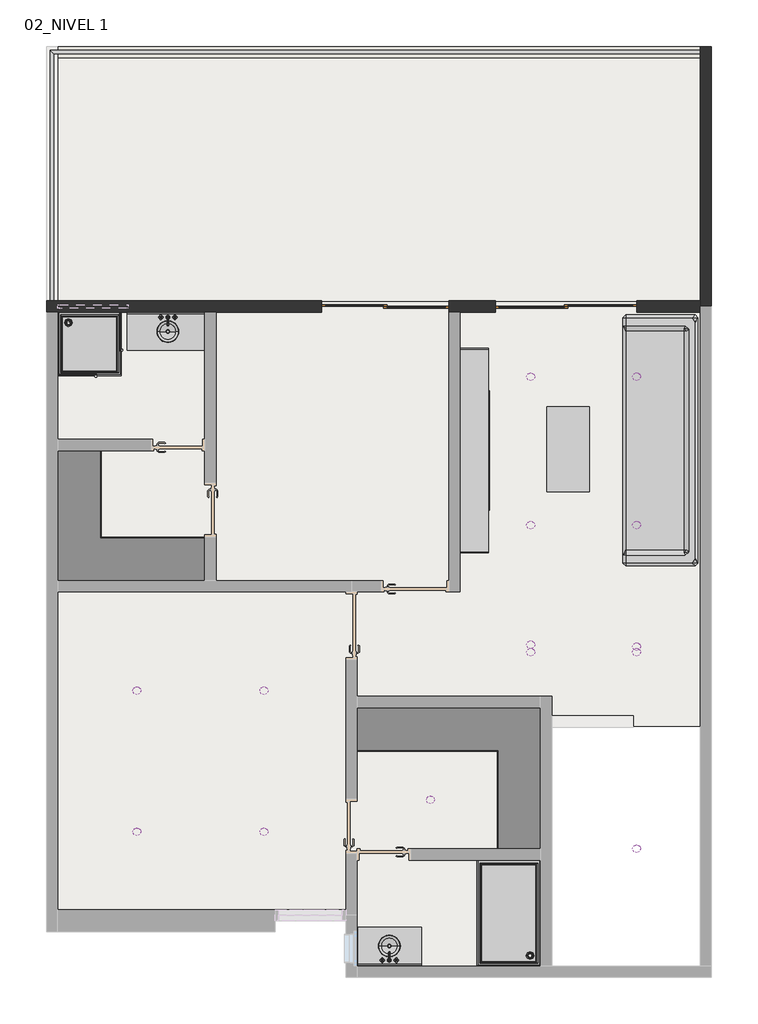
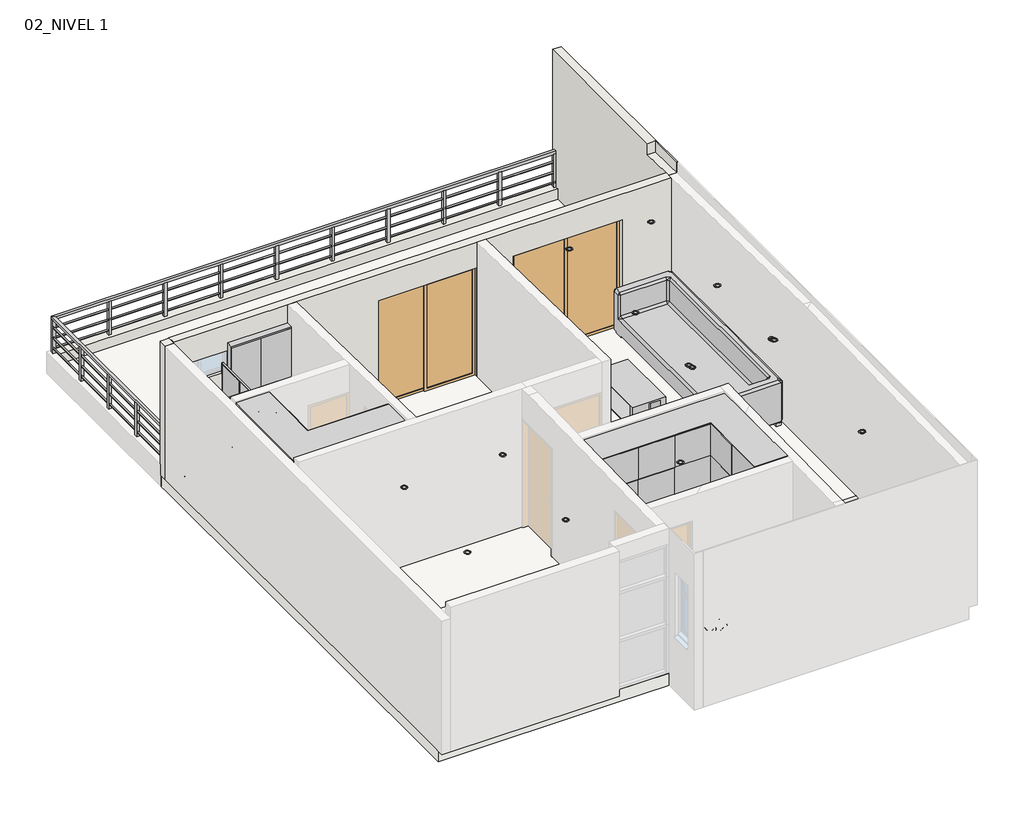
# One storey, part 2 of 2: 14 light fixtures, 8 furniture elements, 3 walls, 2 doors, 2 flow terminals, 2 slabs, 1 railing.
"""IFC4 building model written with IfcOpenShell, lengths in millimetres."""

from ifc_helpers import new_model, si_unit, frame, origin, place, context, project, spatial, polyline, circle_curve, ellipse_curve, outline, extrude, faceted_brep, transform, mapped, element, save
from ifc_brep_helpers import plane_surface, cylinder_surface, advanced_brep
from components import door_2_10x1_80_m_5b8bd3c6, door_2_10x2_00_m_3076c86e, shower_tray_1_900_x_1500mm_318f06ce, shower_tray_1_900_x_900mm_4f2a29ac, furniture_07055d1c, furniture_1fa0e306, furniture_608dc11b, furniture_16c61466, furniture_227ea14e, furniture_196cf90c, furniture_1_20m_x_60cm_cab01552, closet_l_2080x1840_closet_l_2080x1840_3d079f21, closet_l_2600x2000_closet_l_2600x2000_9fe47f77, negro_800ec4d1, light_fixture_93f22e3d

model = new_model("IFC4")

# Units and contexts
model_context = context("Model", 3, world=origin())
ifc_project = project(units=[si_unit("LENGTHUNIT", "METRE", prefix="MILLI")], contexts=[model_context])

# Site, building, storey
site = spatial("IfcSite", under=ifc_project)
building = spatial("IfcBuilding", under=site)
storey = spatial("IfcBuildingStorey", under=building, Name="02_NIVEL 1", Elevation=3100.0)

# Doors
placement = place(None, origin())
door_2_10x1_80_m_shape = door_2_10x1_80_m_5b8bd3c6(model_context)
element("IfcDoor", 1, ObjectType="PUERTA CORREDIZA DE CRISTAL : 2.10x1.80 m", at=placement, inside=storey, context=model_context, shape_type="MappedRepresentation", body=[
    mapped(door_2_10x1_80_m_shape, transform((8631.5346352, 8321.9853574, 3100.0), x_axis=(-1.0, 0.0, 0.0), y_axis=(0.0, -1.0, 0.0), z_axis=(0.0, 0.0, 1.0))),
])
door_2_10x2_00_m_shape = door_2_10x2_00_m_3076c86e(model_context)
element("IfcDoor", 2, ObjectType="PUERTA CORREDIZA DE CRISTAL : 2.10x2.00 m", at=placement, inside=storey, context=model_context, shape_type="MappedRepresentation", body=[
    mapped(door_2_10x2_00_m_shape, transform((11191.5346352, 8321.9853574, 3100.0), x_axis=(1.0, 0.0, 0.0), y_axis=(0.0, 1.0, 0.0), z_axis=(0.0, 0.0, 1.0))),
])

# Flow terminals
shower_tray_1_900_x_1500mm_shape = shower_tray_1_900_x_1500mm_318f06ce(model_context)
element("IfcFlowTerminal", 3, ObjectType="Shower Tray (1) : 900 x 1500mm", at=placement, inside=storey, context=model_context, shape_type="MappedRepresentation", body=[
    mapped(shower_tray_1_900_x_1500mm_shape, transform((10381.5346352, -268.0146426, 3100.0), x_axis=(-1.0, 0.0, 0.0), y_axis=(0.0, -1.0, 0.0), z_axis=(0.0, 0.0, 1.0))),
])
shower_tray_1_900_x_900mm_shape = shower_tray_1_900_x_900mm_4f2a29ac(model_context)
element("IfcFlowTerminal", 4, ObjectType="Shower Tray (1) : 900 x 900mm", at=placement, inside=storey, context=model_context, shape_type="MappedRepresentation", body=[
    mapped(shower_tray_1_900_x_900mm_shape, transform((4441.5346352, 7791.9853574, 3100.0), x_axis=(1.0, 0.0, 0.0), y_axis=(0.0, 1.0, 0.0), z_axis=(0.0, 0.0, 1.0))),
])

# Furniture
furniture_shape = furniture_07055d1c(model_context)
element("IfcFurniture", 5, ObjectType="MUEBLES FLOTANTE SALA 3900 : MUEBLES FLOTANTE SALA 3900", at=placement, inside=storey, context=model_context, shape_type="MappedRepresentation", body=[
    mapped(furniture_shape, transform((9691.5346352, 6281.9853574, 3100.0), x_axis=(0.0, 1.0, 0.0), y_axis=(-1.0, 0.0, 0.0), z_axis=(0.0, 0.0, 1.0))),
])
furniture_2_shape = furniture_1fa0e306(model_context)
element("IfcFurniture", 6, ObjectType="Enscape AssetDefinition - Sofá 035 3 plazas : Enscape AssetDefinition - Sofá 035 3 plazas", at=placement, inside=storey, context=model_context, shape_type="MappedRepresentation", body=[
    mapped(furniture_2_shape, transform((12471.5346352, 6441.9853574, 3100.0), x_axis=(0.0, -1.0, 0.0), y_axis=(1.0, 0.0, 0.0), z_axis=(0.0, 0.0, 1.0))),
])
furniture_3_shape = furniture_608dc11b(model_context)
furniture_4_shape = furniture_16c61466(model_context)
element("IfcFurniture", 7, ObjectType="Mueble para Baño 6 : Único", at=placement, inside=storey, context=model_context, shape_type="MappedRepresentation", body=[
    mapped(furniture_3_shape, transform((8691.5346352, -1008.0146426, 3100.0), x_axis=(-1.0, 0.0, 0.0), y_axis=(0.0, -1.0, 0.0), z_axis=(0.0, 0.0, 1.0))),
    mapped(furniture_4_shape, transform((8691.5346352, -1008.0146426, 3100.0), x_axis=(-1.0, 0.0, 0.0), y_axis=(0.0, -1.0, 0.0), z_axis=(0.0, 0.0, 1.0))),
])
furniture_5_shape = furniture_227ea14e(model_context)
furniture_6_shape = furniture_196cf90c(model_context)
element("IfcFurniture", 8, ObjectType="Mueble para Baño 6 : Único", at=placement, inside=storey, context=model_context, shape_type="MappedRepresentation", body=[
    mapped(furniture_5_shape, transform((5521.5346352, 8241.9853574, 3100.0), x_axis=(1.0, 0.0, 0.0), y_axis=(0.0, 1.0, 0.0), z_axis=(0.0, 0.0, 1.0))),
    mapped(furniture_6_shape, transform((5521.5346352, 8241.9853574, 3100.0), x_axis=(1.0, 0.0, 0.0), y_axis=(0.0, 1.0, 0.0), z_axis=(0.0, 0.0, 1.0))),
])
furniture_1_20m_x_60cm_shape = furniture_1_20m_x_60cm_cab01552(model_context)
element("IfcFurniture", 9, ObjectType="MESA DE CENTRO MODELO CARACAS : 1.20m x 60cm", at=placement, inside=storey, context=model_context, shape_type="MappedRepresentation", body=[
    mapped(furniture_1_20m_x_60cm_shape, transform((11221.5346352, 6301.9853574, 3100.0), x_axis=(0.0, 1.0, 0.0), y_axis=(-1.0, 0.0, 0.0), z_axis=(0.0, 0.0, 1.0))),
])
closet_l_2080x1840_closet_l_2080x1840_shape = closet_l_2080x1840_closet_l_2080x1840_3d079f21(model_context)
element("IfcFurniture", 10, ObjectType="CLOSET L 2080X1840 : CLOSET L 2080X1840", at=placement, inside=storey, context=model_context, shape_type="MappedRepresentation", body=[
    mapped(closet_l_2080x1840_closet_l_2080x1840_shape, transform((5336.2349616, 4442.3977176, 3100.0), x_axis=(-1.0, 0.0, 0.0), y_axis=(0.0, -1.0, 0.0), z_axis=(0.0, 0.0, 1.0))),
])
closet_l_2600x2000_closet_l_2600x2000_shape = closet_l_2600x2000_closet_l_2600x2000_9fe47f77(model_context)
element("IfcFurniture", 11, ObjectType="CLOSET L 2600X2000 : CLOSET L 2600X2000", at=placement, inside=storey, context=model_context, shape_type="MappedRepresentation", body=[
    mapped(closet_l_2600x2000_closet_l_2600x2000_shape, transform((9486.8343088, 2641.9853574, 3100.0), x_axis=(1.0, 0.0, 0.0), y_axis=(0.0, 1.0, 0.0), z_axis=(0.0, 0.0, 1.0))),
])
negro_shape = negro_800ec4d1(model_context)
element("IfcFurniture", 12, ObjectType="Mampara Cuadrada Perfilería : Negro", at=placement, inside=storey, context=model_context, shape_type="MappedRepresentation", body=[
    mapped(negro_shape, transform((3991.5346352, 8241.9853574, 3100.0), x_axis=(1.0, 0.0, 0.0), y_axis=(0.0, 1.0, 0.0), z_axis=(0.0, 0.0, 1.0))),
])

# Light fixtures
light_fixture_shape = light_fixture_93f22e3d(model_context)
element("IfcLightFixture", 13, ObjectType="TECNOLINE-LÁMPARA DE INTERIOR-DOWNLIGHT EMPOTRADA : TECNOLINE-LÁMPARA DE INTERIOR-DOWNLIGHT EMPOTRADA", at=placement, inside=storey, context=model_context, shape_type="MappedRepresentation", body=[
    mapped(light_fixture_shape, transform((9271.5346352, 1335.0945097, 5722.3753481), x_axis=(1.0, 0.0, 0.0), y_axis=(0.0, -0.9997447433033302, -0.022593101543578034), z_axis=(0.0, 0.022593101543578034, -0.9997447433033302))),
])
element("IfcLightFixture", 14, ObjectType="TECNOLINE-LÁMPARA DE INTERIOR-DOWNLIGHT EMPOTRADA : TECNOLINE-LÁMPARA DE INTERIOR-DOWNLIGHT EMPOTRADA", at=placement, inside=storey, context=model_context, shape_type="MappedRepresentation", body=[
    mapped(light_fixture_shape, transform((6911.5346352, 2881.9649369, 5757.3328719), x_axis=(1.0, 0.0, 0.0), y_axis=(0.0, -0.9997447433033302, -0.022593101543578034), z_axis=(0.0, 0.022593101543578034, -0.9997447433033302))),
])
element("IfcLightFixture", 15, ObjectType="TECNOLINE-LÁMPARA DE INTERIOR-DOWNLIGHT EMPOTRADA : TECNOLINE-LÁMPARA DE INTERIOR-DOWNLIGHT EMPOTRADA", at=placement, inside=storey, context=model_context, shape_type="MappedRepresentation", body=[
    mapped(light_fixture_shape, transform((5111.5346352, 2881.9649369, 5757.3328719), x_axis=(1.0, 0.0, 0.0), y_axis=(0.0, -0.9997447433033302, -0.022593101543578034), z_axis=(0.0, 0.022593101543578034, -0.9997447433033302))),
])
element("IfcLightFixture", 16, ObjectType="TECNOLINE-LÁMPARA DE INTERIOR-DOWNLIGHT EMPOTRADA : TECNOLINE-LÁMPARA DE INTERIOR-DOWNLIGHT EMPOTRADA", at=placement, inside=storey, context=model_context, shape_type="MappedRepresentation", body=[
    mapped(light_fixture_shape, transform((6911.5346352, 882.4754503, 5712.1466688), x_axis=(1.0, 0.0, 0.0), y_axis=(0.0, -0.9997447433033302, -0.022593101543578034), z_axis=(0.0, 0.022593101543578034, -0.9997447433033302))),
])
element("IfcLightFixture", 17, ObjectType="TECNOLINE-LÁMPARA DE INTERIOR-DOWNLIGHT EMPOTRADA : TECNOLINE-LÁMPARA DE INTERIOR-DOWNLIGHT EMPOTRADA", at=placement, inside=storey, context=model_context, shape_type="MappedRepresentation", body=[
    mapped(light_fixture_shape, transform((5111.5346352, 882.4754503, 5712.1466688), x_axis=(1.0, 0.0, 0.0), y_axis=(0.0, -0.9997447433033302, -0.022593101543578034), z_axis=(0.0, 0.022593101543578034, -0.9997447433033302))),
])
element("IfcLightFixture", 18, ObjectType="TECNOLINE-LÁMPARA DE INTERIOR-DOWNLIGHT EMPOTRADA : TECNOLINE-LÁMPARA DE INTERIOR-DOWNLIGHT EMPOTRADA", at=placement, inside=storey, context=model_context, shape_type="MappedRepresentation", body=[
    mapped(light_fixture_shape, transform((10691.5346352, 7324.622765, 5717.9547083), x_axis=(1.0, 0.0, 0.0), y_axis=(0.0, -0.9997951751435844, 0.02023876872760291), z_axis=(0.0, -0.02023876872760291, -0.9997951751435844))),
])
element("IfcLightFixture", 19, ObjectType="TECNOLINE-LÁMPARA DE INTERIOR-DOWNLIGHT EMPOTRADA : TECNOLINE-LÁMPARA DE INTERIOR-DOWNLIGHT EMPOTRADA", at=placement, inside=storey, context=model_context, shape_type="MappedRepresentation", body=[
    mapped(light_fixture_shape, transform((12191.5346352, 7325.9378404, 5717.9280874), x_axis=(1.0, 0.0, 0.0), y_axis=(0.0, -0.9997951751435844, 0.02023876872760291), z_axis=(0.0, -0.02023876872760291, -0.9997951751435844))),
])
element("IfcLightFixture", 20, ObjectType="TECNOLINE-LÁMPARA DE INTERIOR-DOWNLIGHT EMPOTRADA : TECNOLINE-LÁMPARA DE INTERIOR-DOWNLIGHT EMPOTRADA", at=placement, inside=storey, context=model_context, shape_type="MappedRepresentation", body=[
    mapped(light_fixture_shape, transform((10691.5346352, 5225.0528972, 5760.4561227), x_axis=(1.0, 0.0, 0.0), y_axis=(0.0, -0.9997951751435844, 0.02023876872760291), z_axis=(0.0, -0.02023876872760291, -0.9997951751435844))),
])
element("IfcLightFixture", 21, ObjectType="TECNOLINE-LÁMPARA DE INTERIOR-DOWNLIGHT EMPOTRADA : TECNOLINE-LÁMPARA DE INTERIOR-DOWNLIGHT EMPOTRADA", at=placement, inside=storey, context=model_context, shape_type="MappedRepresentation", body=[
    mapped(light_fixture_shape, transform((12191.5346352, 5226.3679726, 5760.4295017), x_axis=(1.0, 0.0, 0.0), y_axis=(0.0, -0.9997951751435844, 0.02023876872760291), z_axis=(0.0, -0.02023876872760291, -0.9997951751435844))),
])
element("IfcLightFixture", 22, ObjectType="TECNOLINE-LÁMPARA DE INTERIOR-DOWNLIGHT EMPOTRADA : TECNOLINE-LÁMPARA DE INTERIOR-DOWNLIGHT EMPOTRADA", at=placement, inside=storey, context=model_context, shape_type="MappedRepresentation", body=[
    mapped(light_fixture_shape, transform((10691.5346352, 3425.421582, 5796.8859064), x_axis=(1.0, 0.0, 0.0), y_axis=(0.0, -0.9997951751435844, 0.02023876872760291), z_axis=(0.0, -0.02023876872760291, -0.9997951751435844))),
])
element("IfcLightFixture", 23, ObjectType="TECNOLINE-LÁMPARA DE INTERIOR-DOWNLIGHT EMPOTRADA : TECNOLINE-LÁMPARA DE INTERIOR-DOWNLIGHT EMPOTRADA", at=placement, inside=storey, context=model_context, shape_type="MappedRepresentation", body=[
    mapped(light_fixture_shape, transform((12191.5346352, 3426.7366573, 5796.8592854), x_axis=(1.0, 0.0, 0.0), y_axis=(0.0, -0.9997951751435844, 0.02023876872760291), z_axis=(0.0, -0.02023876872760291, -0.9997951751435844))),
])
element("IfcLightFixture", 24, ObjectType="TECNOLINE-LÁMPARA DE INTERIOR-DOWNLIGHT EMPOTRADA : TECNOLINE-LÁMPARA DE INTERIOR-DOWNLIGHT EMPOTRADA", at=placement, inside=storey, context=model_context, shape_type="MappedRepresentation", body=[
    mapped(light_fixture_shape, transform((12191.5346352, 3503.2064397, 5771.3722278), x_axis=(1.0, 0.0, 0.0), y_axis=(0.0, -0.9997447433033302, -0.022593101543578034), z_axis=(0.0, 0.022593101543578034, -0.9997447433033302))),
])
element("IfcLightFixture", 25, ObjectType="TECNOLINE-LÁMPARA DE INTERIOR-DOWNLIGHT EMPOTRADA : TECNOLINE-LÁMPARA DE INTERIOR-DOWNLIGHT EMPOTRADA", at=placement, inside=storey, context=model_context, shape_type="MappedRepresentation", body=[
    mapped(light_fixture_shape, transform((10691.5346352, 3532.2843028, 5772.0293547), x_axis=(1.0, 0.0, 0.0), y_axis=(0.0, -0.9997447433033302, -0.022593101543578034), z_axis=(0.0, 0.022593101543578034, -0.9997447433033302))),
])
element("IfcLightFixture", 26, ObjectType="TECNOLINE-LÁMPARA DE INTERIOR-DOWNLIGHT EMPOTRADA : TECNOLINE-LÁMPARA DE INTERIOR-DOWNLIGHT EMPOTRADA", at=placement, inside=storey, context=model_context, shape_type="MappedRepresentation", body=[
    mapped(light_fixture_shape, transform((12191.9036792, 641.9853577, 5715.4397556), x_axis=(0.9999955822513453, -5.6878639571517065e-05, 0.0029719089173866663), y_axis=(0.0, -0.9998169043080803, -0.01913525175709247), z_axis=(0.0029724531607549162, 0.01913516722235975, -0.9998124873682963))),
])

# Railing
element("IfcRailing", 27, ObjectType="Porte perfil cuadrado y tubería 70 cm altura", at=placement, inside=storey, context=model_context, shape_type="SolidModel", body=[
    faceted_brep([(13091.5346352, 11896.9853574, 4000.0), (13091.5346352, 11896.9853574, 3950.0), (13091.5346352, 11946.9853574, 3950.0), (13091.5346352, 11946.9853574, 4000.0), (3936.5346352, 11896.9853574, 4000.0), (3936.5346352, 11896.9853574, 3950.0), (3886.5346352, 11946.9853574, 3950.0), (3886.5346352, 11946.9853574, 4000.0), (3936.5346352, 8386.9853574, 4000.0), (3886.5346352, 8386.9853574, 4000.0), (3886.5346352, 8386.9853574, 3950.0), (3936.5346352, 8386.9853574, 3950.0)], [[[0, 1, 2, 3]], [[1, 0, 4, 5]], [[2, 1, 5, 6]], [[3, 2, 6, 7]], [[0, 3, 7, 4]], [[8, 9, 10, 11]], [[5, 4, 8, 11]], [[6, 5, 11, 10]], [[7, 6, 10, 9]], [[4, 7, 9, 8]]]),
    advanced_brep(
    [(13091.5346352, 11906.9853574, 3785.0), (13091.5346352, 11936.9853574, 3785.0), (3926.5346352, 11906.9853574, 3785.0), (3896.5346352, 11936.9853574, 3785.0), (3926.5346352, 8386.9853574, 3785.0), (3896.5346352, 8386.9853574, 3785.0)],
    [
        (0, 1, circle_curve(frame((13091.5346352, 11921.9853574, 3785.0), z_axis=(1.0, 0.0, 0.0), x_axis=(0.0, 1.0, 0.0)), 15.0)),
        (1, 0, circle_curve(frame((13091.5346352, 11921.9853574, 3785.0), z_axis=(1.0, 0.0, 0.0), x_axis=(0.0, 1.0, 0.0)), 15.0)),
        (0, 2),
        (2, 3, ellipse_curve(frame((3911.5346352, 11921.9853574, 3785.0), z_axis=(0.7071067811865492, 0.7071067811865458, 0.0), x_axis=(0.7071067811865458, -0.7071067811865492, 0.0)), 21.2132034, 15.0)),
        (3, 1),
        (3, 2, ellipse_curve(frame((3911.5346352, 11921.9853574, 3785.0), z_axis=(0.7071067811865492, 0.7071067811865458, 0.0), x_axis=(0.7071067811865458, -0.7071067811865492, 0.0)), 21.2132034, 15.0)),
        (4, 5, circle_curve(frame((3911.5346352, 8386.9853574, 3785.0), z_axis=(0.0, -1.0, 0.0), x_axis=(-1.0, 0.0, 0.0)), 15.0)),
        (5, 4, circle_curve(frame((3911.5346352, 8386.9853574, 3785.0), z_axis=(0.0, -1.0, 0.0), x_axis=(-1.0, 0.0, 0.0)), 15.0)),
        (2, 4),
        (5, 3),
    ],
    [
        plane_surface(frame((13091.5346352, 11921.9853574, 3800.0), z_axis=(1.0, 0.0, 0.0), x_axis=(0.0, -1.0, 0.0))),
        cylinder_surface(frame((13091.5346352, 11921.9853574, 3785.0), z_axis=(1.0, 0.0, 0.0), x_axis=(0.0, 1.0, 0.0)), 15.0),
        plane_surface(frame((3911.5346352, 8386.9853574, 3800.0), z_axis=(0.0, -1.0, 0.0), x_axis=(0.0, 0.0, -1.0))),
        cylinder_surface(frame((3911.5346352, 11921.9853574, 3785.0), z_axis=(0.0, 1.0, 0.0), x_axis=(-1.0, 0.0, 0.0)), 15.0),
    ],
    [
        (0, [[1, 2]]),
        (1, [[-1, 3, 4, 5]]),
        (1, [[-2, -5, 6, -3]]),
        (2, [[7, 8]]),
        (3, [[-4, 9, -8, 10]]),
        (3, [[-6, -10, -7, -9]]),
    ],
),
    advanced_brep(
    [(13091.5346352, 11906.9853574, 3585.0), (13091.5346352, 11936.9853574, 3585.0), (3926.5346352, 11906.9853574, 3585.0), (3896.5346352, 11936.9853574, 3585.0), (3926.5346352, 8386.9853574, 3585.0), (3896.5346352, 8386.9853574, 3585.0)],
    [
        (0, 1, circle_curve(frame((13091.5346352, 11921.9853574, 3585.0), z_axis=(1.0, 0.0, 0.0), x_axis=(0.0, 1.0, 0.0)), 15.0)),
        (1, 0, circle_curve(frame((13091.5346352, 11921.9853574, 3585.0), z_axis=(1.0, 0.0, 0.0), x_axis=(0.0, 1.0, 0.0)), 15.0)),
        (0, 2),
        (2, 3, ellipse_curve(frame((3911.5346352, 11921.9853574, 3585.0), z_axis=(0.7071067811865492, 0.7071067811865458, 0.0), x_axis=(0.7071067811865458, -0.7071067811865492, 0.0)), 21.2132034, 15.0)),
        (3, 1),
        (3, 2, ellipse_curve(frame((3911.5346352, 11921.9853574, 3585.0), z_axis=(0.7071067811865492, 0.7071067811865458, 0.0), x_axis=(0.7071067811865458, -0.7071067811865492, 0.0)), 21.2132034, 15.0)),
        (4, 5, circle_curve(frame((3911.5346352, 8386.9853574, 3585.0), z_axis=(0.0, -1.0, 0.0), x_axis=(-1.0, 0.0, 0.0)), 15.0)),
        (5, 4, circle_curve(frame((3911.5346352, 8386.9853574, 3585.0), z_axis=(0.0, -1.0, 0.0), x_axis=(-1.0, 0.0, 0.0)), 15.0)),
        (2, 4),
        (5, 3),
    ],
    [
        plane_surface(frame((13091.5346352, 11921.9853574, 3600.0), z_axis=(1.0, 0.0, 0.0), x_axis=(0.0, -1.0, 0.0))),
        cylinder_surface(frame((13091.5346352, 11921.9853574, 3585.0), z_axis=(1.0, 0.0, 0.0), x_axis=(0.0, 1.0, 0.0)), 15.0),
        plane_surface(frame((3911.5346352, 8386.9853574, 3600.0), z_axis=(0.0, -1.0, 0.0), x_axis=(0.0, 0.0, -1.0))),
        cylinder_surface(frame((3911.5346352, 11921.9853574, 3585.0), z_axis=(0.0, 1.0, 0.0), x_axis=(-1.0, 0.0, 0.0)), 15.0),
    ],
    [
        (0, [[1, 2]]),
        (1, [[-1, 3, 4, 5]]),
        (1, [[-2, -5, 6, -3]]),
        (2, [[7, 8]]),
        (3, [[-4, 9, -8, 10]]),
        (3, [[-6, -10, -7, -9]]),
    ],
),
    advanced_brep(
    [(13091.5346352, 11906.9853574, 3385.0), (13091.5346352, 11936.9853574, 3385.0), (3926.5346352, 11906.9853574, 3385.0), (3896.5346352, 11936.9853574, 3385.0), (3926.5346352, 8386.9853574, 3385.0), (3896.5346352, 8386.9853574, 3385.0)],
    [
        (0, 1, circle_curve(frame((13091.5346352, 11921.9853574, 3385.0), z_axis=(1.0, 0.0, 0.0), x_axis=(0.0, 1.0, 0.0)), 15.0)),
        (1, 0, circle_curve(frame((13091.5346352, 11921.9853574, 3385.0), z_axis=(1.0, 0.0, 0.0), x_axis=(0.0, 1.0, 0.0)), 15.0)),
        (0, 2),
        (2, 3, ellipse_curve(frame((3911.5346352, 11921.9853574, 3385.0), z_axis=(0.7071067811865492, 0.7071067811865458, 0.0), x_axis=(0.7071067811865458, -0.7071067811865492, 0.0)), 21.2132034, 15.0)),
        (3, 1),
        (3, 2, ellipse_curve(frame((3911.5346352, 11921.9853574, 3385.0), z_axis=(0.7071067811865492, 0.7071067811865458, 0.0), x_axis=(0.7071067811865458, -0.7071067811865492, 0.0)), 21.2132034, 15.0)),
        (4, 5, circle_curve(frame((3911.5346352, 8386.9853574, 3385.0), z_axis=(0.0, -1.0, 0.0), x_axis=(-1.0, 0.0, 0.0)), 15.0)),
        (5, 4, circle_curve(frame((3911.5346352, 8386.9853574, 3385.0), z_axis=(0.0, -1.0, 0.0), x_axis=(-1.0, 0.0, 0.0)), 15.0)),
        (2, 4),
        (5, 3),
    ],
    [
        plane_surface(frame((13091.5346352, 11921.9853574, 3400.0), z_axis=(1.0, 0.0, 0.0), x_axis=(0.0, -1.0, 0.0))),
        cylinder_surface(frame((13091.5346352, 11921.9853574, 3385.0), z_axis=(1.0, 0.0, 0.0), x_axis=(0.0, 1.0, 0.0)), 15.0),
        plane_surface(frame((3911.5346352, 8386.9853574, 3400.0), z_axis=(0.0, -1.0, 0.0), x_axis=(0.0, 0.0, -1.0))),
        cylinder_surface(frame((3911.5346352, 11921.9853574, 3385.0), z_axis=(0.0, 1.0, 0.0), x_axis=(-1.0, 0.0, 0.0)), 15.0),
    ],
    [
        (0, [[1, 2]]),
        (1, [[-1, 3, 4, 5]]),
        (1, [[-2, -5, 6, -3]]),
        (2, [[7, 8]]),
        (3, [[-4, 9, -8, 10]]),
        (3, [[-6, -10, -7, -9]]),
    ],
),
    extrude(outline(polyline([(3886.1346352, 9296.1353574), (3936.9346352, 9296.1353574), (3936.9346352, 9245.3353574), (3886.1346352, 9245.3353574), (3886.1346352, 9296.1353574)])), frame((0.0, 0.0, 3300.0), z_axis=(0.0, 0.0, 1.0), x_axis=(1.0, 0.0, 0.0)), (0.0, 0.0, 1.0), 650.0),
    extrude(outline(polyline([(3886.1346352, 10179.8853574), (3936.9346352, 10179.8853574), (3936.9346352, 10129.0853574), (3886.1346352, 10129.0853574), (3886.1346352, 10179.8853574)])), frame((0.0, 0.0, 3300.0), z_axis=(0.0, 0.0, 1.0), x_axis=(1.0, 0.0, 0.0)), (0.0, 0.0, 1.0), 650.0),
    extrude(outline(polyline([(3886.1346352, 11063.6353574), (3936.9346352, 11063.6353574), (3936.9346352, 11012.8353574), (3886.1346352, 11012.8353574), (3886.1346352, 11063.6353574)])), frame((0.0, 0.0, 3300.0), z_axis=(0.0, 0.0, 1.0), x_axis=(1.0, 0.0, 0.0)), (0.0, 0.0, 1.0), 650.0),
    extrude(outline(polyline([(4956.9346352, 11947.3853574), (4956.9346352, 11896.5853574), (4906.1346352, 11896.5853574), (4906.1346352, 11947.3853574), (4956.9346352, 11947.3853574)])), frame((0.0, 0.0, 3300.0), z_axis=(0.0, 0.0, 1.0), x_axis=(1.0, 0.0, 0.0)), (0.0, 0.0, 1.0), 650.0),
    extrude(outline(polyline([(5976.9346352, 11947.3853574), (5976.9346352, 11896.5853574), (5926.1346352, 11896.5853574), (5926.1346352, 11947.3853574), (5976.9346352, 11947.3853574)])), frame((0.0, 0.0, 3300.0), z_axis=(0.0, 0.0, 1.0), x_axis=(1.0, 0.0, 0.0)), (0.0, 0.0, 1.0), 650.0),
    extrude(outline(polyline([(6996.9346352, 11947.3853574), (6996.9346352, 11896.5853574), (6946.1346352, 11896.5853574), (6946.1346352, 11947.3853574), (6996.9346352, 11947.3853574)])), frame((0.0, 0.0, 3300.0), z_axis=(0.0, 0.0, 1.0), x_axis=(1.0, 0.0, 0.0)), (0.0, 0.0, 1.0), 650.0),
    extrude(outline(polyline([(8016.9346352, 11947.3853574), (8016.9346352, 11896.5853574), (7966.1346352, 11896.5853574), (7966.1346352, 11947.3853574), (8016.9346352, 11947.3853574)])), frame((0.0, 0.0, 3300.0), z_axis=(0.0, 0.0, 1.0), x_axis=(1.0, 0.0, 0.0)), (0.0, 0.0, 1.0), 650.0),
    extrude(outline(polyline([(9036.9346352, 11947.3853574), (9036.9346352, 11896.5853574), (8986.1346352, 11896.5853574), (8986.1346352, 11947.3853574), (9036.9346352, 11947.3853574)])), frame((0.0, 0.0, 3300.0), z_axis=(0.0, 0.0, 1.0), x_axis=(1.0, 0.0, 0.0)), (0.0, 0.0, 1.0), 650.0),
    extrude(outline(polyline([(10056.9346352, 11947.3853574), (10056.9346352, 11896.5853574), (10006.1346352, 11896.5853574), (10006.1346352, 11947.3853574), (10056.9346352, 11947.3853574)])), frame((0.0, 0.0, 3300.0), z_axis=(0.0, 0.0, 1.0), x_axis=(1.0, 0.0, 0.0)), (0.0, 0.0, 1.0), 650.0),
    extrude(outline(polyline([(11076.9346352, 11947.3853574), (11076.9346352, 11896.5853574), (11026.1346352, 11896.5853574), (11026.1346352, 11947.3853574), (11076.9346352, 11947.3853574)])), frame((0.0, 0.0, 3300.0), z_axis=(0.0, 0.0, 1.0), x_axis=(1.0, 0.0, 0.0)), (0.0, 0.0, 1.0), 650.0),
    extrude(outline(polyline([(12096.9346352, 11947.3853574), (12096.9346352, 11896.5853574), (12046.1346352, 11896.5853574), (12046.1346352, 11947.3853574), (12096.9346352, 11947.3853574)])), frame((0.0, 0.0, 3300.0), z_axis=(0.0, 0.0, 1.0), x_axis=(1.0, 0.0, 0.0)), (0.0, 0.0, 1.0), 650.0),
    extrude(outline(polyline([(3936.9346352, 11947.3853574), (3936.9346352, 11896.5853574), (3886.1346352, 11896.5853574), (3886.1346352, 11947.3853574), (3936.9346352, 11947.3853574)])), frame((0.0, 0.0, 3300.0), z_axis=(0.0, 0.0, 1.0), x_axis=(1.0, 0.0, 0.0)), (0.0, 0.0, 1.0), 650.0),
    extrude(outline(polyline([(3886.1346352, 8424.8853574), (3936.9346352, 8424.8853574), (3936.9346352, 8374.0853574), (3886.1346352, 8374.0853574), (3886.1346352, 8424.8853574)])), frame((0.0, 0.0, 3300.0), z_axis=(0.0, 0.0, 1.0), x_axis=(1.0, 0.0, 0.0)), (0.0, 0.0, 1.0), 650.0),
    extrude(outline(polyline([(13104.4346352, 11947.3853574), (13104.4346352, 11896.5853574), (13053.6346352, 11896.5853574), (13053.6346352, 11947.3853574), (13104.4346352, 11947.3853574)])), frame((0.0, 0.0, 3300.0), z_axis=(0.0, 0.0, 1.0), x_axis=(1.0, 0.0, 0.0)), (0.0, 0.0, 1.0), 650.0),
])

# Slabs
element("IfcSlab", 28, ObjectType="LOSA ALIGERADA 20 CM-YESO+PISO 60X120 CM", at=placement, inside=storey, context=model_context, shape_type="Brep", body=[
    faceted_brep([(3846.5346352, -378.0146426, 2870.0), (3846.5346352, -218.0146426, 2870.0), (3846.5346352, 8241.9853574, 2870.0), (3846.5346352, 8386.9853574, 2870.0), (13091.5346352, 8386.9853574, 2870.0), (13236.5346352, 8386.9853574, 2870.0), (13236.5346352, 2381.9853574, 2870.0), (13091.5346352, 2381.9853574, 2870.0), (12141.9346352, 2381.9853574, 2870.0), (10991.5346352, 2381.9853574, 2870.0), (10976.5346352, 2381.9853574, 2870.0), (10976.5346352, -1018.0146426, 2870.0), (10976.5346352, -1163.0146426, 2870.0), (8231.5346352, -1163.0146426, 2870.0), (8086.5346352, -1163.0146426, 2870.0), (8086.5346352, -378.0146426, 2870.0), (8071.5346352, -378.0146426, 2870.0), (7071.5346352, -378.0146426, 2870.0), (3846.5346352, -378.0146426, 3100.0), (7071.5346352, -378.0146426, 3100.0), (8071.5346352, -378.0146426, 3100.0), (8086.5346352, -378.0146426, 3100.0), (8086.5346352, -1163.0146426, 3100.0), (8231.5346352, -1163.0146426, 3100.0), (10976.5346352, -1163.0146426, 3100.0), (10976.5346352, -1018.0146426, 3100.0), (10976.5346352, 2381.9853574, 3100.0), (10991.5346352, 2381.9853574, 3100.0), (12141.9346352, 2381.9853574, 3100.0), (13091.5346352, 2381.9853574, 3100.0), (13236.5346352, 2381.9853574, 3100.0), (13236.5346352, 8386.9853574, 3100.0), (3846.5346352, 8386.9853574, 3100.0), (3846.5346352, 8241.9853574, 3100.0), (3846.5346352, -218.0146426, 3100.0), (3846.5346352, 8386.9853574, 2884.0), (13236.5346352, 8386.9853574, 2884.0)], [[[0, 1, 2, 3, 4, 5, 6, 7, 8, 9, 10, 11, 12, 13, 14, 15, 16, 17]], [[18, 19, 20, 21, 22, 23, 24, 25, 26, 27, 28, 29, 30, 31, 32, 33, 34]], [[3, 2, 1, 0, 18, 34, 33, 32, 35]], [[5, 4, 3, 35, 32, 31, 36]], [[6, 5, 36, 31, 30]], [[14, 13, 12, 24, 23, 22]], [[15, 14, 22, 21]], [[0, 17, 16, 15, 21, 20, 19, 18]], [[10, 9, 8, 7, 6, 30, 29, 28, 27, 26]], [[12, 11, 10, 26, 25, 24]]]),
])
element("IfcSlab", 29, ObjectType="LOSA DE AZOTEA ALIGERADA 20 CM +YESO", at=placement, inside=storey, context=model_context, shape_type="Brep", body=[
    faceted_brep([(3846.5346352, 8386.9853574, 2884.0), (3846.5346352, 8401.9853574, 2884.0), (3846.5346352, 11986.9853574, 2884.0), (3991.5346352, 11986.9853574, 2884.0), (13091.5346352, 11986.9853574, 2884.0), (13236.5346352, 11986.9853574, 2884.0), (13236.5346352, 11501.9853574, 2884.0), (13236.5346352, 8386.9853574, 2884.0), (13091.5346352, 8386.9853574, 2884.0), (3846.5346352, 8386.9853574, 3100.0), (13236.5346352, 8386.9853574, 3100.0), (13236.5346352, 11501.9853574, 3100.0), (13236.5346352, 11986.9853574, 3100.0), (13091.5346352, 11986.9853574, 3100.0), (3991.5346352, 11986.9853574, 3100.0), (3846.5346352, 11986.9853574, 3100.0), (3846.5346352, 8401.9853574, 3100.0)], [[[0, 1, 2, 3, 4, 5, 6, 7, 8]], [[9, 10, 11, 12, 13, 14, 15, 16]], [[2, 1, 0, 9, 16, 15]], [[5, 4, 3, 2, 15, 14, 13, 12]], [[0, 8, 7, 10, 9]], [[7, 6, 5, 12, 11, 10]]]),
])

# Walls
element("IfcWall", 30, ObjectType="M_LADRILLO_13-YESO+YESO", at=placement, inside=storey, context=model_context, shape_type="Brep", body=[
    faceted_brep([(3831.5346352, 8401.9853574, 3100.0), (3831.5346352, 8401.9853574, 3300.0), (3831.5346352, 8401.9853574, 5684.0), (3991.5346352, 8401.9853574, 5684.0), (3991.5346352, 8401.9853574, 5696.145749), (13091.5346352, 8401.9853574, 5696.145749), (13091.5346352, 8401.9853574, 3100.0), (12191.5346352, 8401.9853574, 3100.0), (12191.5346352, 8401.9853574, 5200.0), (10191.5346352, 8401.9853574, 5200.0), (10191.5346352, 8401.9853574, 3100.0), (9531.5346352, 8401.9853574, 3100.0), (9531.5346352, 8401.9853574, 5200.0), (7731.5346352, 8401.9853574, 5200.0), (7731.5346352, 8401.9853574, 3100.0), (3991.5346352, 8401.9853574, 3100.0), (3846.5346352, 8401.9853574, 3100.0), (3991.5346352, 8401.9853574, 5200.0), (3991.5346352, 8401.9853574, 4800.0), (4991.5346352, 8401.9853574, 4800.0), (4991.5346352, 8401.9853574, 5200.0), (3991.5346352, 8241.9853574, 5684.0), (3831.5346352, 8241.9853574, 5684.0), (3831.5346352, 8241.9853574, 3100.0), (3846.5346352, 8241.9853574, 3100.0), (3991.5346352, 8241.9853574, 3100.0), (6071.5346352, 8241.9853574, 3100.0), (6231.5346352, 8241.9853574, 3100.0), (7731.5346352, 8241.9853574, 3100.0), (7731.5346352, 8241.9853574, 5200.0), (9531.5346352, 8241.9853574, 5200.0), (9531.5346352, 8241.9853574, 3100.0), (9691.5346352, 8241.9853574, 3100.0), (10191.5346352, 8241.9853574, 3100.0), (10191.5346352, 8241.9853574, 5200.0), (12191.5346352, 8241.9853574, 5200.0), (12191.5346352, 8241.9853574, 3100.0), (13091.5346352, 8241.9853574, 3100.0), (13091.5346352, 8241.9853574, 5699.3846154), (9691.5346352, 8241.9853574, 5699.3846154), (9531.5346352, 8241.9853574, 5699.3846154), (6231.5346352, 8241.9853574, 5699.3846154), (6071.5346352, 8241.9853574, 5699.3846154), (3991.5346352, 8241.9853574, 5699.3846154), (3991.5346352, 8241.9853574, 4800.0), (3991.5346352, 8241.9853574, 5200.0), (4991.5346352, 8241.9853574, 5200.0), (4991.5346352, 8241.9853574, 4800.0), (13091.5346352, 8321.9853574, 3100.0), (13091.5346352, 8321.9853574, 5697.7651822)], [[[0, 1, 2, 3, 4, 5, 6, 7, 8, 9, 10, 11, 12, 13, 14, 15, 16], [17, 18, 19, 20]], [[21, 22, 23, 24, 25, 26, 27, 28, 29, 30, 31, 32, 33, 34, 35, 36, 37, 38, 39, 40, 41, 42, 43], [44, 45, 46, 47]], [[23, 0, 16, 15, 14, 28, 27, 26, 25, 24]], [[36, 7, 6, 48, 37]], [[10, 33, 32, 31, 11]], [[0, 23, 22, 2, 1]], [[3, 21, 43, 4]], [[2, 22, 21, 3]], [[35, 8, 7, 36]], [[8, 35, 34, 9]], [[9, 34, 33, 10]], [[38, 49, 5, 4, 43, 42, 41, 40, 39]], [[14, 13, 29, 28]], [[13, 12, 30, 29]], [[12, 11, 31, 30]], [[45, 44, 18, 17]], [[46, 45, 17, 20]], [[47, 46, 20, 19]], [[44, 47, 19, 18]], [[6, 5, 49, 38, 37, 48]]]),
])
element("IfcWall", 31, ObjectType="M_LADRILLO_13-YESO+YESO", at=placement, inside=storey, context=model_context, shape_type="Brep", body=[
    faceted_brep([(13091.5346352, 11841.9853574, 3300.0), (3991.5346352, 11841.9853574, 3300.0), (3991.5346352, 11841.9853574, 3100.0), (13091.5346352, 11841.9853574, 3100.0), (13091.5346352, 12001.9853574, 2884.0), (3991.5346352, 12001.9853574, 2884.0), (3991.5346352, 12001.9853574, 3300.0), (13091.5346352, 12001.9853574, 3300.0), (13091.5346352, 12001.9853574, 3100.0), (13091.5346352, 11986.9853574, 2884.0), (3991.5346352, 11986.9853574, 2884.0), (3991.5346352, 11986.9853574, 3100.0), (13091.5346352, 11986.9853574, 3100.0)], [[[0, 1, 2, 3]], [[4, 5, 6, 7, 8]], [[5, 4, 9, 10]], [[1, 0, 7, 6]], [[1, 6, 5, 10, 11, 2]], [[11, 12, 3, 2]], [[12, 11, 10, 9]], [[4, 8, 7, 0, 3, 12, 9]]]),
])
element("IfcWall", 32, ObjectType="M_LADRILLO_13-YESO+YESO", at=placement, inside=storey, context=model_context, shape_type="Brep", body=[
    faceted_brep([(13251.5346352, 8321.9853574, 3100.0), (13251.5346352, 11501.9853574, 3100.0), (13251.5346352, 12001.9853574, 3100.0), (13251.5346352, 12001.9853574, 5900.0), (13251.5346352, 9016.9853574, 5900.0), (13251.5346352, 8321.9853574, 5900.0), (13091.5346352, 12001.9853574, 3100.0), (13091.5346352, 11986.9853574, 3100.0), (13091.5346352, 11841.9853574, 3100.0), (13091.5346352, 8401.9853574, 3100.0), (13091.5346352, 8321.9853574, 3100.0), (13091.5346352, 8321.9853574, 5697.7651822), (13091.5346352, 8401.9853574, 5696.145749), (13091.5346352, 9001.9853574, 5684.0), (13091.5346352, 9001.9853574, 5900.0), (13091.5346352, 9016.9853574, 5900.0), (13091.5346352, 12001.9853574, 5900.0), (13091.5346352, 12001.9853574, 3300.0), (13236.5346352, 9001.9853574, 5900.0), (13236.5346352, 8321.9853574, 5900.0), (13236.5346352, 9001.9853574, 5684.0), (13236.5346352, 8321.9853574, 5697.7651822)], [[[0, 1, 2, 3, 4, 5]], [[6, 7, 8, 9, 10, 11, 12, 13, 14, 15, 16, 17]], [[2, 1, 0, 10, 9, 8, 7, 6]], [[5, 4, 3, 16, 15, 14, 18, 19]], [[3, 2, 6, 17, 16]], [[20, 18, 14, 13]], [[18, 20, 21, 19]], [[21, 20, 13, 12, 11]], [[10, 0, 5, 19, 21, 11]]]),
])

save(model, "model.ifc")
